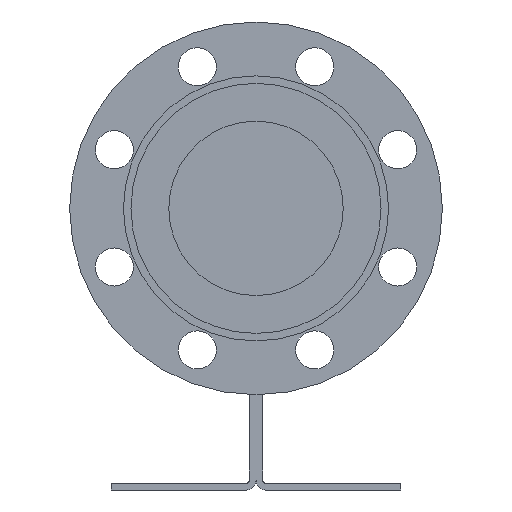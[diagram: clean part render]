
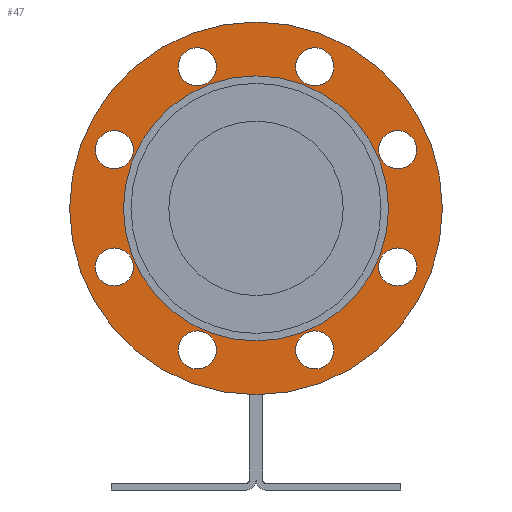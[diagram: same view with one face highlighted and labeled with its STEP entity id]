
A CAD part, left-side view. The second image highlights one B-rep face of the part: STEP entity #47.
In plain terms, the highlighted planar face has unit normal (-1, 0, 0).
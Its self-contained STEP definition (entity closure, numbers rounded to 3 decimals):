
#47=ADVANCED_FACE('',(#230,#231,#232,#233,#234,#235,#236,#237,#238,#239),#229,.T.);
#229=PLANE('',#1330);
#230=FACE_OUTER_BOUND('',#1331,.T.);
#231=FACE_BOUND('',#1332,.T.);
#232=FACE_BOUND('',#1333,.T.);
#233=FACE_BOUND('',#1334,.T.);
#234=FACE_BOUND('',#1335,.T.);
#235=FACE_BOUND('',#1336,.T.);
#236=FACE_BOUND('',#1337,.T.);
#237=FACE_BOUND('',#1338,.T.);
#238=FACE_BOUND('',#1339,.T.);
#239=FACE_BOUND('',#1340,.T.);
#1327=CARTESIAN_POINT('',(-437.,-204.856,-235.));
#1328=DIRECTION('',(-1.,0.,0.));
#1329=DIRECTION('',(0.,0.,1.));
#1330=AXIS2_PLACEMENT_3D('',#1327,#1328,#1329);
#1331=EDGE_LOOP('',(#1944,#1945));
#1332=EDGE_LOOP('',(#1946,#1947));
#1333=EDGE_LOOP('',(#1948,#1949));
#1334=EDGE_LOOP('',(#1950,#1951));
#1335=EDGE_LOOP('',(#1952,#1953));
#1336=EDGE_LOOP('',(#1954,#1955));
#1337=EDGE_LOOP('',(#1956,#1957));
#1338=EDGE_LOOP('',(#1958,#1959));
#1339=EDGE_LOOP('',(#1960,#1961));
#1340=EDGE_LOOP('',(#1962,#1963));
#1944=ORIENTED_EDGE('',*,*,#2498,.T.);
#1945=ORIENTED_EDGE('',*,*,#2499,.T.);
#1946=ORIENTED_EDGE('',*,*,#2500,.T.);
#1947=ORIENTED_EDGE('',*,*,#2501,.T.);
#1948=ORIENTED_EDGE('',*,*,#2502,.T.);
#1949=ORIENTED_EDGE('',*,*,#2503,.T.);
#1950=ORIENTED_EDGE('',*,*,#2504,.T.);
#1951=ORIENTED_EDGE('',*,*,#2505,.T.);
#1952=ORIENTED_EDGE('',*,*,#2506,.T.);
#1953=ORIENTED_EDGE('',*,*,#2507,.T.);
#1954=ORIENTED_EDGE('',*,*,#2508,.T.);
#1955=ORIENTED_EDGE('',*,*,#2509,.T.);
#1956=ORIENTED_EDGE('',*,*,#2510,.T.);
#1957=ORIENTED_EDGE('',*,*,#2511,.T.);
#1958=ORIENTED_EDGE('',*,*,#2512,.T.);
#1959=ORIENTED_EDGE('',*,*,#2513,.T.);
#1960=ORIENTED_EDGE('',*,*,#2514,.T.);
#1961=ORIENTED_EDGE('',*,*,#2515,.T.);
#1962=ORIENTED_EDGE('',*,*,#2516,.F.);
#1963=ORIENTED_EDGE('',*,*,#2517,.F.);
#2498=EDGE_CURVE('',#3051,#3052,#3053,.T.);
#2499=EDGE_CURVE('',#3052,#3051,#3059,.T.);
#2500=EDGE_CURVE('',#3065,#3066,#3067,.T.);
#2501=EDGE_CURVE('',#3066,#3065,#3073,.T.);
#2502=EDGE_CURVE('',#3079,#3080,#3081,.T.);
#2503=EDGE_CURVE('',#3080,#3079,#3087,.T.);
#2504=EDGE_CURVE('',#3093,#3094,#3095,.T.);
#2505=EDGE_CURVE('',#3094,#3093,#3101,.T.);
#2506=EDGE_CURVE('',#3107,#3108,#3109,.T.);
#2507=EDGE_CURVE('',#3108,#3107,#3115,.T.);
#2508=EDGE_CURVE('',#3121,#3122,#3123,.T.);
#2509=EDGE_CURVE('',#3122,#3121,#3129,.T.);
#2510=EDGE_CURVE('',#3135,#3136,#3137,.T.);
#2511=EDGE_CURVE('',#3136,#3135,#3143,.T.);
#2512=EDGE_CURVE('',#3149,#3150,#3151,.T.);
#2513=EDGE_CURVE('',#3150,#3149,#3157,.T.);
#2514=EDGE_CURVE('',#3163,#3164,#3165,.T.);
#2515=EDGE_CURVE('',#3164,#3163,#3171,.T.);
#2516=EDGE_CURVE('',#3177,#3178,#3179,.T.);
#2517=EDGE_CURVE('',#3178,#3177,#3185,.T.);
#3051=VERTEX_POINT('',#4792);
#3052=VERTEX_POINT('',#4793);
#3053=CIRCLE('',#4797,112.5);
#3059=CIRCLE('',#4801,112.5);
#3065=VERTEX_POINT('',#4802);
#3066=VERTEX_POINT('',#4803);
#3067=CIRCLE('',#4807,11.5);
#3073=CIRCLE('',#4811,11.5);
#3079=VERTEX_POINT('',#4812);
#3080=VERTEX_POINT('',#4813);
#3081=CIRCLE('',#4817,11.5);
#3087=CIRCLE('',#4821,11.5);
#3093=VERTEX_POINT('',#4822);
#3094=VERTEX_POINT('',#4823);
#3095=CIRCLE('',#4827,11.5);
#3101=CIRCLE('',#4831,11.5);
#3107=VERTEX_POINT('',#4832);
#3108=VERTEX_POINT('',#4833);
#3109=CIRCLE('',#4837,11.5);
#3115=CIRCLE('',#4841,11.5);
#3121=VERTEX_POINT('',#4842);
#3122=VERTEX_POINT('',#4843);
#3123=CIRCLE('',#4847,11.5);
#3129=CIRCLE('',#4851,11.5);
#3135=VERTEX_POINT('',#4852);
#3136=VERTEX_POINT('',#4853);
#3137=CIRCLE('',#4857,11.5);
#3143=CIRCLE('',#4861,11.5);
#3149=VERTEX_POINT('',#4862);
#3150=VERTEX_POINT('',#4863);
#3151=CIRCLE('',#4867,11.5);
#3157=CIRCLE('',#4871,11.5);
#3163=VERTEX_POINT('',#4872);
#3164=VERTEX_POINT('',#4873);
#3165=CIRCLE('',#4877,11.5);
#3171=CIRCLE('',#4881,11.5);
#3177=VERTEX_POINT('',#4882);
#3178=VERTEX_POINT('',#4883);
#3179=CIRCLE('',#4887,80.);
#3185=CIRCLE('',#4891,80.);
#4792=CARTESIAN_POINT('',(-437.,0.,112.5));
#4793=CARTESIAN_POINT('',(-437.,0.,-112.5));
#4794=CARTESIAN_POINT('',(-437.,0.,0.));
#4795=DIRECTION('',(-1.,0.,0.));
#4796=DIRECTION('',(0.,0.,1.));
#4797=AXIS2_PLACEMENT_3D('',#4794,#4795,#4796);
#4798=CARTESIAN_POINT('',(-437.,0.,0.));
#4799=DIRECTION('',(-1.,0.,0.));
#4800=DIRECTION('',(0.,0.,1.));
#4801=AXIS2_PLACEMENT_3D('',#4798,#4799,#4800);
#4802=CARTESIAN_POINT('',(-437.,85.459,46.898));
#4803=CARTESIAN_POINT('',(-437.,85.459,23.898));
#4804=CARTESIAN_POINT('',(-437.,85.459,35.398));
#4805=DIRECTION('',(1.,0.,0.));
#4806=DIRECTION('',(0.,0.,1.));
#4807=AXIS2_PLACEMENT_3D('',#4804,#4805,#4806);
#4808=CARTESIAN_POINT('',(-437.,85.459,35.398));
#4809=DIRECTION('',(1.,0.,0.));
#4810=DIRECTION('',(0.,0.,1.));
#4811=AXIS2_PLACEMENT_3D('',#4808,#4809,#4810);
#4812=CARTESIAN_POINT('',(-437.,35.398,96.959));
#4813=CARTESIAN_POINT('',(-437.,35.398,73.959));
#4814=CARTESIAN_POINT('',(-437.,35.398,85.459));
#4815=DIRECTION('',(1.,0.,0.));
#4816=DIRECTION('',(0.,0.,1.));
#4817=AXIS2_PLACEMENT_3D('',#4814,#4815,#4816);
#4818=CARTESIAN_POINT('',(-437.,35.398,85.459));
#4819=DIRECTION('',(1.,0.,0.));
#4820=DIRECTION('',(0.,0.,1.));
#4821=AXIS2_PLACEMENT_3D('',#4818,#4819,#4820);
#4822=CARTESIAN_POINT('',(-437.,-35.398,96.959));
#4823=CARTESIAN_POINT('',(-437.,-35.398,73.959));
#4824=CARTESIAN_POINT('',(-437.,-35.398,85.459));
#4825=DIRECTION('',(1.,0.,0.));
#4826=DIRECTION('',(0.,0.,1.));
#4827=AXIS2_PLACEMENT_3D('',#4824,#4825,#4826);
#4828=CARTESIAN_POINT('',(-437.,-35.398,85.459));
#4829=DIRECTION('',(1.,0.,0.));
#4830=DIRECTION('',(0.,0.,1.));
#4831=AXIS2_PLACEMENT_3D('',#4828,#4829,#4830);
#4832=CARTESIAN_POINT('',(-437.,-85.459,-23.898));
#4833=CARTESIAN_POINT('',(-437.,-85.459,-46.898));
#4834=CARTESIAN_POINT('',(-437.,-85.459,-35.398));
#4835=DIRECTION('',(1.,0.,0.));
#4836=DIRECTION('',(0.,0.,1.));
#4837=AXIS2_PLACEMENT_3D('',#4834,#4835,#4836);
#4838=CARTESIAN_POINT('',(-437.,-85.459,-35.398));
#4839=DIRECTION('',(1.,0.,0.));
#4840=DIRECTION('',(0.,0.,1.));
#4841=AXIS2_PLACEMENT_3D('',#4838,#4839,#4840);
#4842=CARTESIAN_POINT('',(-437.,-35.398,-73.959));
#4843=CARTESIAN_POINT('',(-437.,-35.398,-96.959));
#4844=CARTESIAN_POINT('',(-437.,-35.398,-85.459));
#4845=DIRECTION('',(1.,0.,0.));
#4846=DIRECTION('',(0.,0.,1.));
#4847=AXIS2_PLACEMENT_3D('',#4844,#4845,#4846);
#4848=CARTESIAN_POINT('',(-437.,-35.398,-85.459));
#4849=DIRECTION('',(1.,0.,0.));
#4850=DIRECTION('',(0.,0.,1.));
#4851=AXIS2_PLACEMENT_3D('',#4848,#4849,#4850);
#4852=CARTESIAN_POINT('',(-437.,-85.459,46.898));
#4853=CARTESIAN_POINT('',(-437.,-85.459,23.898));
#4854=CARTESIAN_POINT('',(-437.,-85.459,35.398));
#4855=DIRECTION('',(1.,0.,0.));
#4856=DIRECTION('',(0.,0.,1.));
#4857=AXIS2_PLACEMENT_3D('',#4854,#4855,#4856);
#4858=CARTESIAN_POINT('',(-437.,-85.459,35.398));
#4859=DIRECTION('',(1.,0.,0.));
#4860=DIRECTION('',(0.,0.,1.));
#4861=AXIS2_PLACEMENT_3D('',#4858,#4859,#4860);
#4862=CARTESIAN_POINT('',(-437.,35.398,-73.959));
#4863=CARTESIAN_POINT('',(-437.,35.398,-96.959));
#4864=CARTESIAN_POINT('',(-437.,35.398,-85.459));
#4865=DIRECTION('',(1.,0.,0.));
#4866=DIRECTION('',(0.,0.,1.));
#4867=AXIS2_PLACEMENT_3D('',#4864,#4865,#4866);
#4868=CARTESIAN_POINT('',(-437.,35.398,-85.459));
#4869=DIRECTION('',(1.,0.,0.));
#4870=DIRECTION('',(0.,0.,1.));
#4871=AXIS2_PLACEMENT_3D('',#4868,#4869,#4870);
#4872=CARTESIAN_POINT('',(-437.,85.459,-23.898));
#4873=CARTESIAN_POINT('',(-437.,85.459,-46.898));
#4874=CARTESIAN_POINT('',(-437.,85.459,-35.398));
#4875=DIRECTION('',(1.,0.,0.));
#4876=DIRECTION('',(0.,0.,1.));
#4877=AXIS2_PLACEMENT_3D('',#4874,#4875,#4876);
#4878=CARTESIAN_POINT('',(-437.,85.459,-35.398));
#4879=DIRECTION('',(1.,0.,0.));
#4880=DIRECTION('',(0.,0.,1.));
#4881=AXIS2_PLACEMENT_3D('',#4878,#4879,#4880);
#4882=CARTESIAN_POINT('',(-437.,0.,-80.));
#4883=CARTESIAN_POINT('',(-437.,0.,80.));
#4884=CARTESIAN_POINT('',(-437.,0.,0.));
#4885=DIRECTION('',(-1.,0.,0.));
#4886=DIRECTION('',(0.,0.,1.));
#4887=AXIS2_PLACEMENT_3D('',#4884,#4885,#4886);
#4888=CARTESIAN_POINT('',(-437.,0.,0.));
#4889=DIRECTION('',(-1.,0.,0.));
#4890=DIRECTION('',(0.,0.,1.));
#4891=AXIS2_PLACEMENT_3D('',#4888,#4889,#4890);
